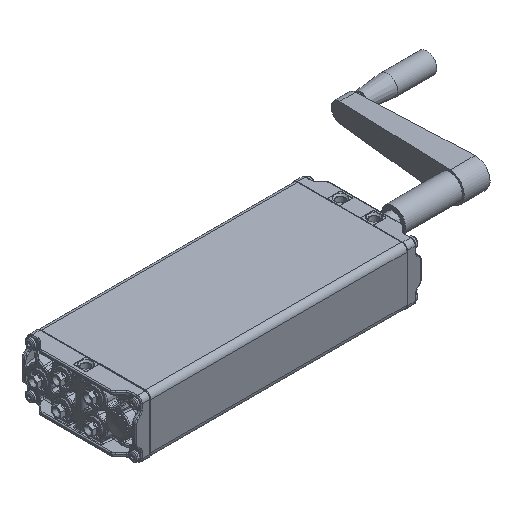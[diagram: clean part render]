
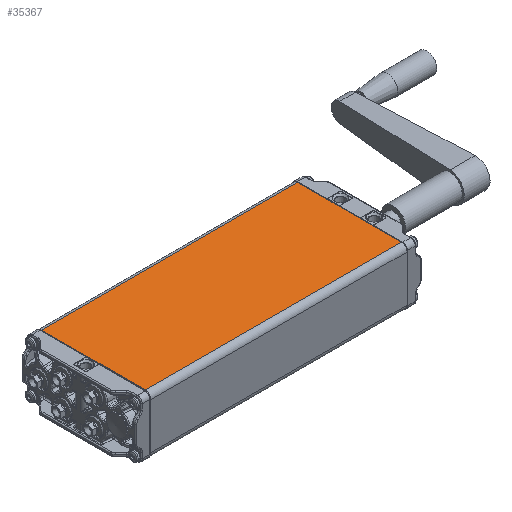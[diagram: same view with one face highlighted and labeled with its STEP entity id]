
A CAD part, isometric view. The second image highlights one B-rep face of the part: STEP entity #35367.
In plain terms, the highlighted planar face has unit normal (0, 0, 1).
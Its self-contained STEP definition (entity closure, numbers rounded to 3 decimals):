
#3675=LINE('',#75999,#5034);
#3676=LINE('',#76002,#5035);
#3677=LINE('',#76004,#5036);
#3678=LINE('',#76006,#5037);
#5034=VECTOR('',#43203,1000.);
#5035=VECTOR('',#43204,1000.);
#5036=VECTOR('',#43205,1000.);
#5037=VECTOR('',#43206,1000.);
#10663=ORIENTED_EDGE('',*,*,#16882,.T.);
#10664=ORIENTED_EDGE('',*,*,#16883,.T.);
#10665=ORIENTED_EDGE('',*,*,#16884,.T.);
#10666=ORIENTED_EDGE('',*,*,#16885,.T.);
#16882=EDGE_CURVE('',#20254,#20255,#3675,.F.);
#16883=EDGE_CURVE('',#20255,#20256,#3676,.T.);
#16884=EDGE_CURVE('',#20256,#20257,#3677,.T.);
#16885=EDGE_CURVE('',#20257,#20254,#3678,.F.);
#20254=VERTEX_POINT('',#76000);
#20255=VERTEX_POINT('',#76001);
#20256=VERTEX_POINT('',#76003);
#20257=VERTEX_POINT('',#76005);
#23949=EDGE_LOOP('',(#10663,#10664,#10665,#10666));
#26073=FACE_BOUND('',#23949,.T.);
#27262=PLANE('',#37828);
#35367=ADVANCED_FACE('',(#26073),#27262,.T.);
#37828=AXIS2_PLACEMENT_3D('',#75998,#43201,#43202);
#43201=DIRECTION('',(0.,0.,1.));
#43202=DIRECTION('',(1.,0.,0.));
#43203=DIRECTION('',(0.,-1.,0.));
#43204=DIRECTION('',(-1.,0.,0.));
#43205=DIRECTION('',(0.,-1.,0.));
#43206=DIRECTION('',(-1.,0.,0.));
#75998=CARTESIAN_POINT('',(60.,268.5,30.));
#75999=CARTESIAN_POINT('',(54.,268.5,30.));
#76000=CARTESIAN_POINT('',(54.,0.5,30.));
#76001=CARTESIAN_POINT('',(54.,268.,30.));
#76002=CARTESIAN_POINT('',(60.,268.,30.));
#76003=CARTESIAN_POINT('',(-54.,268.,30.));
#76004=CARTESIAN_POINT('',(-54.,268.5,30.));
#76005=CARTESIAN_POINT('',(-54.,0.5,30.));
#76006=CARTESIAN_POINT('',(54.,0.5,30.));
